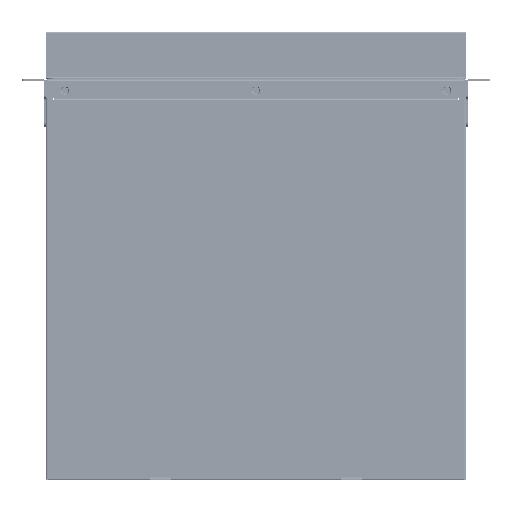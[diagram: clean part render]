
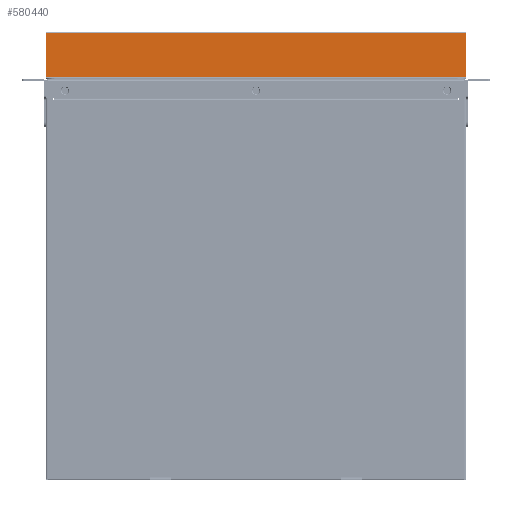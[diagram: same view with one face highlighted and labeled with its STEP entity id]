
A CAD part, front view. The second image highlights one B-rep face of the part: STEP entity #580440.
In plain terms, the highlighted planar face has unit normal (0, -1, 0).
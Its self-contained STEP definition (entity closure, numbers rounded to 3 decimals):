
#9936 = DIRECTION ( 'NONE',  ( -1., 0., 0. ) ) ;
#24225 = CARTESIAN_POINT ( 'NONE',  ( -220., -97.5, 0.5 ) ) ;
#30599 = ORIENTED_EDGE ( 'NONE', *, *, #489976, .F. ) ;
#41783 = LINE ( 'NONE', #216585, #523566 ) ;
#52989 = VERTEX_POINT ( 'NONE', #242062 ) ;
#64183 = LINE ( 'NONE', #312020, #585378 ) ;
#74462 = PLANE ( 'NONE',  #307524 ) ;
#75323 = VERTEX_POINT ( 'NONE', #502823 ) ;
#82621 = EDGE_LOOP ( 'NONE', ( #30599, #525473, #290764, #262045 ) ) ;
#104925 = CARTESIAN_POINT ( 'NONE',  ( -220., -97.5, 46.5 ) ) ;
#118045 = LINE ( 'NONE', #651547, #220498 ) ;
#120270 = EDGE_CURVE ( 'NONE', #356455, #590581, #118045, .T. ) ;
#146515 = VECTOR ( 'NONE', #589076, 1000. ) ;
#154127 = EDGE_CURVE ( 'NONE', #52989, #75323, #41783, .T. ) ;
#171450 = DIRECTION ( 'NONE',  ( 0., 0., 1. ) ) ;
#187870 = FACE_OUTER_BOUND ( 'NONE', #82621, .T. ) ;
#216585 = CARTESIAN_POINT ( 'NONE',  ( 220., -97.5, 0. ) ) ;
#220498 = VECTOR ( 'NONE', #390819, 1000. ) ;
#242062 = CARTESIAN_POINT ( 'NONE',  ( 220., -97.5, 0.5 ) ) ;
#262045 = ORIENTED_EDGE ( 'NONE', *, *, #154127, .T. ) ;
#280616 = LINE ( 'NONE', #332807, #146515 ) ;
#284548 = EDGE_CURVE ( 'NONE', #52989, #590581, #64183, .T. ) ;
#290764 = ORIENTED_EDGE ( 'NONE', *, *, #284548, .F. ) ;
#307524 = AXIS2_PLACEMENT_3D ( 'NONE', #624183, #325846, #171450 ) ;
#312020 = CARTESIAN_POINT ( 'NONE',  ( -220., -97.5, 0.5 ) ) ;
#325846 = DIRECTION ( 'NONE',  ( 0., 1., 0. ) ) ;
#332807 = CARTESIAN_POINT ( 'NONE',  ( -220., -97.5, 46.5 ) ) ;
#356455 = VERTEX_POINT ( 'NONE', #104925 ) ;
#390819 = DIRECTION ( 'NONE',  ( 0., 0., -1. ) ) ;
#468201 = DIRECTION ( 'NONE',  ( 0., 0., 1. ) ) ;
#489976 = EDGE_CURVE ( 'NONE', #356455, #75323, #280616, .T. ) ;
#502823 = CARTESIAN_POINT ( 'NONE',  ( 220., -97.5, 46.5 ) ) ;
#523566 = VECTOR ( 'NONE', #468201, 1000. ) ;
#525473 = ORIENTED_EDGE ( 'NONE', *, *, #120270, .T. ) ;
#580440 = ADVANCED_FACE ( 'NONE', ( #187870 ), #74462, .F. ) ;
#585378 = VECTOR ( 'NONE', #9936, 1000. ) ;
#589076 = DIRECTION ( 'NONE',  ( 1., 0., 0. ) ) ;
#590581 = VERTEX_POINT ( 'NONE', #24225 ) ;
#624183 = CARTESIAN_POINT ( 'NONE',  ( 0., -97.5, 0. ) ) ;
#651547 = CARTESIAN_POINT ( 'NONE',  ( -220., -97.5, 0. ) ) ;
